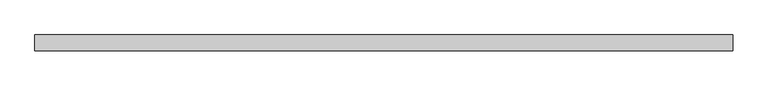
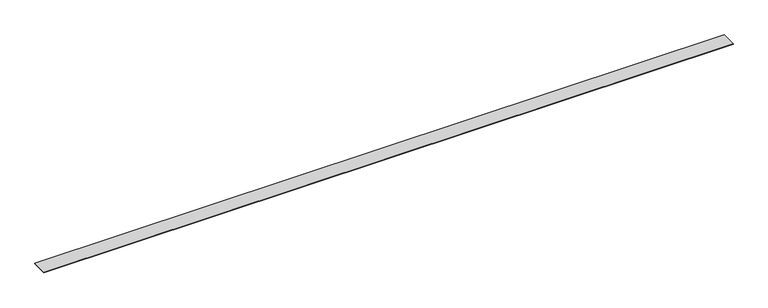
"""IFC4 building model written with IfcOpenShell, lengths in millimetres: duct fitting geometry, Разделительная перегородка - DLP - секционируемая - профиль 65 - 2 м - белая : Разделительная перегородка - DLP - секционируемая - профиль 65 - 2 м - белая."""

from ifc_helpers import new_model, si_unit, frame, origin, place, context, project, spatial, polyline, outline, extrude, source, transform, mapped, element, save


def duct_fitting_6cefaedd(model_context):
    return source(origin(), model_context, "Body", "SweptSolid", [
        extrude(outline(polyline([(-1000.0, -22.5), (-1000.0, 22.5), (1000.0, 22.5), (1000.0, -22.5), (-1000.0, -22.5)])), frame((0.0, 0.0, -1.0), z_axis=(0.0, 0.0, 1.0), x_axis=(1.0, 0.0, 0.0)), (0.0, 0.0, 1.0), 2.0),
    ])


if __name__ == "__main__":
    model = new_model("IFC4")
    model_context = context("Model", 3, world=origin())
    ifc_project = project(units=[si_unit("LENGTHUNIT", "METRE", prefix="MILLI")], contexts=[model_context])
    site = spatial("IfcSite", under=ifc_project)
    building = spatial("IfcBuilding", under=site)
    placement = place(None, origin())
    duct_fitting_shape = duct_fitting_6cefaedd(model_context)
    element("IfcDuctFitting", 1, ObjectType="Разделительная перегородка - DLP - секционируемая - профиль 65 - 2 м - белая : Разделительная перегородка - DLP - секционируемая - профиль 65 - 2 м - белая", at=placement, inside=building, context=model_context, shape_type="MappedRepresentation", body=[
        mapped(duct_fitting_shape, transform((0.0, 0.0, 0.0), x_axis=(1.0, 0.0, 0.0), y_axis=(0.0, 1.0, 0.0), z_axis=(0.0, 0.0, 1.0))),
    ])
    save(model, "model.ifc")
